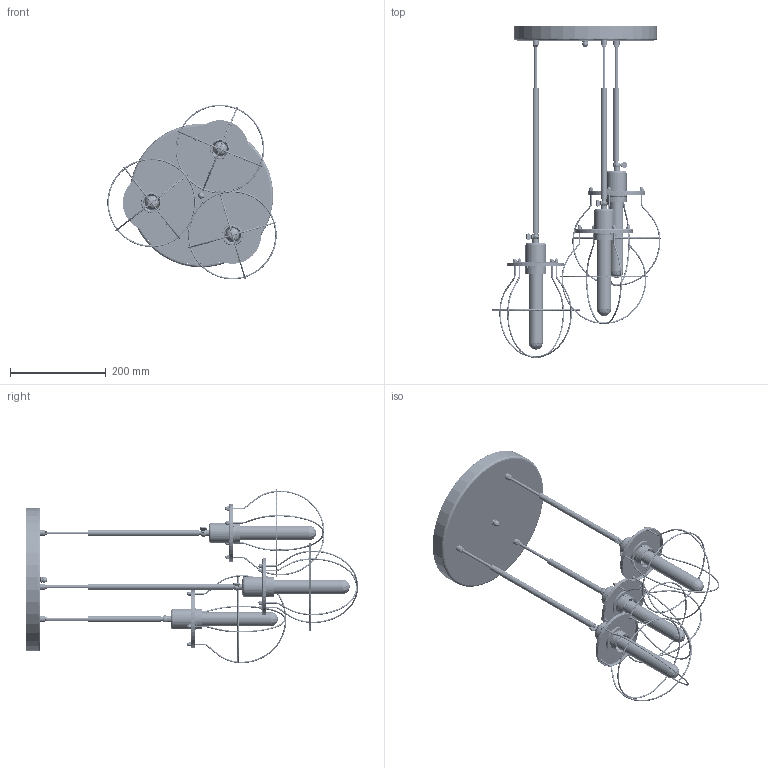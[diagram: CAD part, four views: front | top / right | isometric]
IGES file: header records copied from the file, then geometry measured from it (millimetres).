
Start section: SolidWorks IGES file using analytic representation for surfaces
Global section: file name: E:\3D lampy\Manufacture\Manufacture_9740.IGS; native system: SolidWorks 2016; preprocessor: SolidWorks 2016; author: Asia; date: 170713.112229; units: millimetre
Bounding box: 353.71 x 693.63 x 364.91 mm (x, y, z)
Surface area: 623420.1 mm2 (no closed solid volume)
Topology: 0 solids, 0 shells, 2191 faces, 32462 edges, 32373 vertices
Faces by surface type: revolution 1180, bspline 1011
